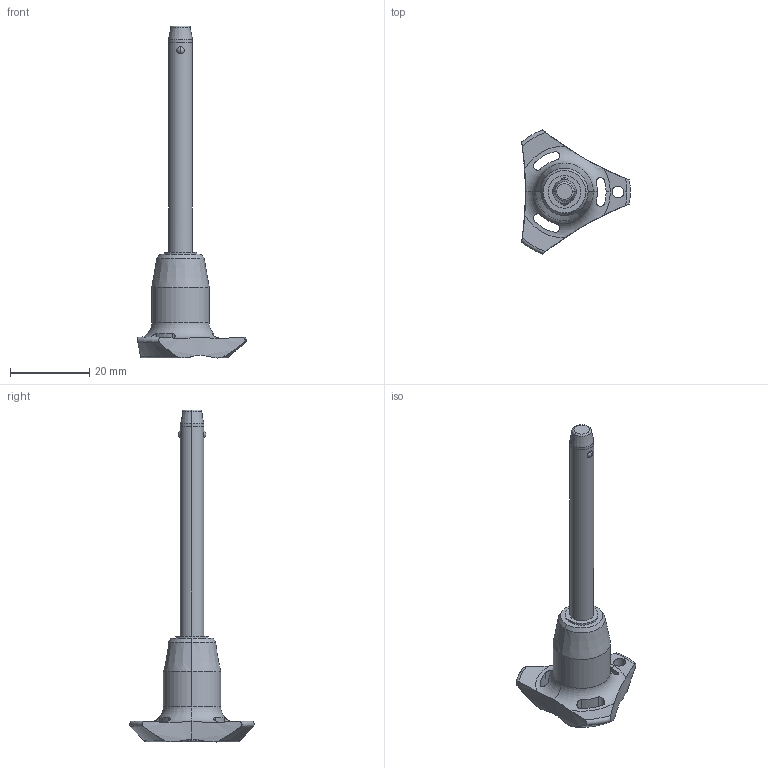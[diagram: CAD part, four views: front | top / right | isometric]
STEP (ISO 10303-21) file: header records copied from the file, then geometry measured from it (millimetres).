
FILE_DESCRIPTION (( 'STEP AP203' ), '1' );
FILE_NAME ('QR1726.M06-050-T.step', '2025-11-13T11:04:07', ( '' ), ( '' ), 'SwSTEP 2.0', 'SolidWorks 2019', '' );
FILE_SCHEMA (( 'CONFIG_CONTROL_DESIGN' ));
Length unit declared in the file: millimetre
Products named in the file (1): QR1726.M06-050-T
Bounding box: 27.4 x 31.31 x 83.7 mm (x, y, z)
Volume: 6379.7 mm3; surface area: 3495.4 mm2
Topology: 1 solids, 1 shells, 69 faces, 187 edges, 119 vertices
Faces by surface type: cylinder 32, cone 14, torus 12, sphere 6, plane 5
Entity records: 2789 total; most frequent: CARTESIAN_POINT 1010, ORIENTED_EDGE 374, DIRECTION 348, EDGE_CURVE 187, AXIS2_PLACEMENT_3D 155, VERTEX_POINT 119, CIRCLE 85, EDGE_LOOP 76
